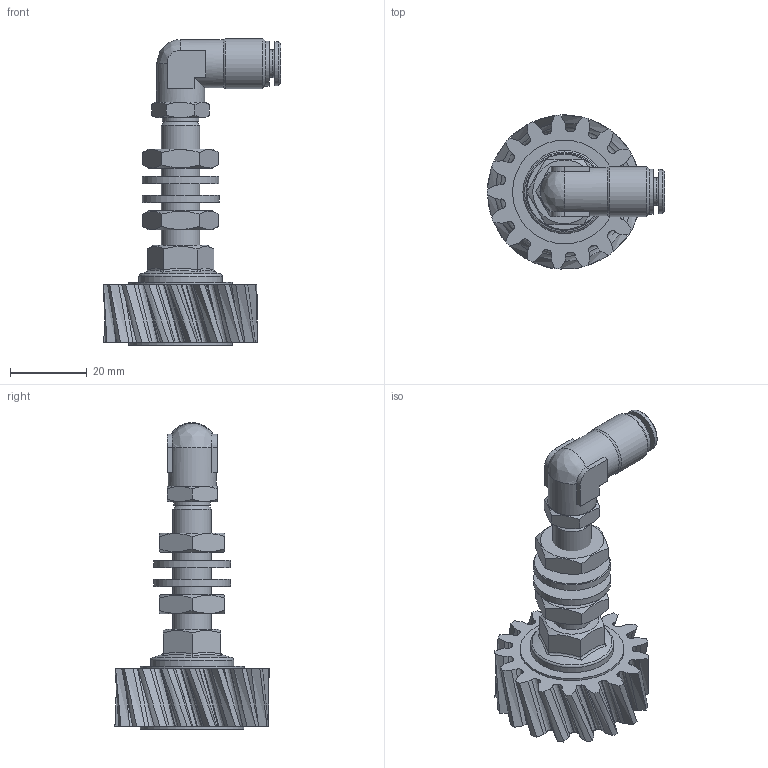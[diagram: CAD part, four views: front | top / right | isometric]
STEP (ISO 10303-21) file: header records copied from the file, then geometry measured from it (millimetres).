
FILE_DESCRIPTION (( 'STEP AP214' ), '1' );
FILE_NAME ('012_13_02_15_17ALZ.STEP', '2026-04-14T13:25:21', ( '' ), ( '' ), 'SwSTEP 2.0', 'SolidWorks 2022', '' );
FILE_SCHEMA (( 'AUTOMOTIVE_DESIGN' ));
Length unit declared in the file: millimetre
Products named in the file (13): H202225_HDS_022_6_M6_28.09.22; 12012_06_01_Scheibe-CRS-VA_27.SLDASM; 012_06_Senkschraube; DR6-C_HDX_25.07.16; 012_13_02_15_17ALZ; H214667-HDS_1-8_M6X1Z; Modul_2_S_L_15B; U_Scheibe_10.5; Mutter_M10; Achse_M10_1_Schmierzahnrad; OR 7.2X1.9; R11155-N2
Assembly tree (14 placements, depth 4):
  012_13_02_15_17ALZ
    Achse_M10_1_Schmierzahnrad
    12012_06_01_Scheibe-CRS-VA_27.SLDASM
    012_06_Senkschraube
    Mutter_M10  x2
    U_Scheibe_10.5  x2
    H202225_HDS_022_6_M6_28.09.22
      R11155-N2
      DR6-C_HDX_25.07.16
      H214667-HDS_1-8_M6X1Z
        H214667-HDS_1-8_M6X1Z
        OR 7.2X1.9
    Modul_2_S_L_15B
Bounding box: 46.05 x 40.07 x 79.7 mm (x, y, z)
Volume: 26868.7 mm3; surface area: 17068.1 mm2
Topology: 12 solids, 12 shells, 668 faces, 1795 edges, 1187 vertices
Faces by surface type: plane 328, bspline 231, cylinder 56, cone 49, torus 4
Full cylindrical faces by diameter (mm): 2 x1, 4 x1, 4.6 x1, 5 x1, 6 x2, 6.2 x1, 6.3 x1, 7.2 x1, 8.5 x2, 9 x2, 9.5 x1, 9.9 x1, 10 x2, 10.1 x2, 10.3 x1, 10.5 x2, 11.5 x1, 11.7 x1, 12.5 x2, 13 x1, 20 x2, 21.6 x1, 27 x2
Entity records: 54072 total; most frequent: CARTESIAN_POINT 38387, ORIENTED_EDGE 3284, DIRECTION 2066, EDGE_CURVE 1642, VERTEX_POINT 1119, VECTOR 888, LINE 888, EDGE_LOOP 769
